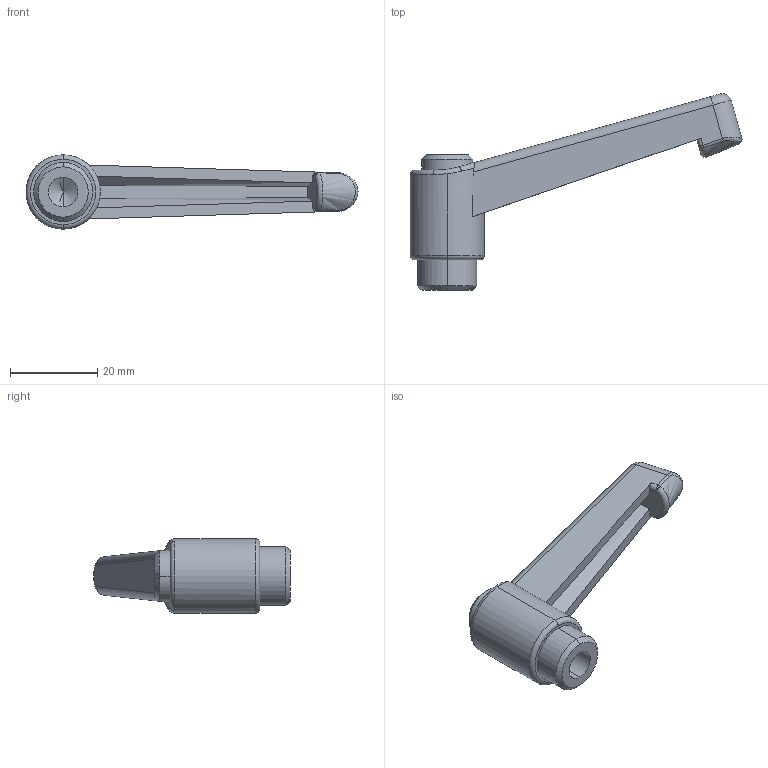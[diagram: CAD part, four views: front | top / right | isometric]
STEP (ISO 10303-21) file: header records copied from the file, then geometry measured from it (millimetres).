
FILE_DESCRIPTION (( 'STEP AP203' ), '1' );
FILE_NAME ('A-403-63-M8.STEP', '2015-11-21T17:39:53', ( '' ), ( '' ), 'SwSTEP 2.0', 'SolidWorks 2014', '' );
FILE_SCHEMA (( 'CONFIG_CONTROL_DESIGN' ));
Length unit declared in the file: millimetre
Products named in the file (1): A-403-63-M8
Bounding box: 76.02 x 45.03 x 17 mm (x, y, z)
Volume: 10944.6 mm3; surface area: 4911.9 mm2
Topology: 1 solids, 1 shells, 55 faces, 132 edges, 79 vertices
Faces by surface type: cylinder 15, plane 15, bspline 11, cone 6, torus 4, sphere 4
Entity records: 2157 total; most frequent: CARTESIAN_POINT 911, ORIENTED_EDGE 260, DIRECTION 229, EDGE_CURVE 130, AXIS2_PLACEMENT_3D 95, VERTEX_POINT 79, EDGE_LOOP 57, FACE_OUTER_BOUND 55
